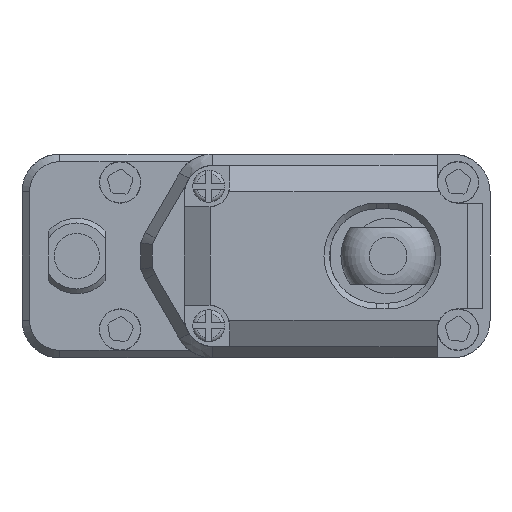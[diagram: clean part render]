
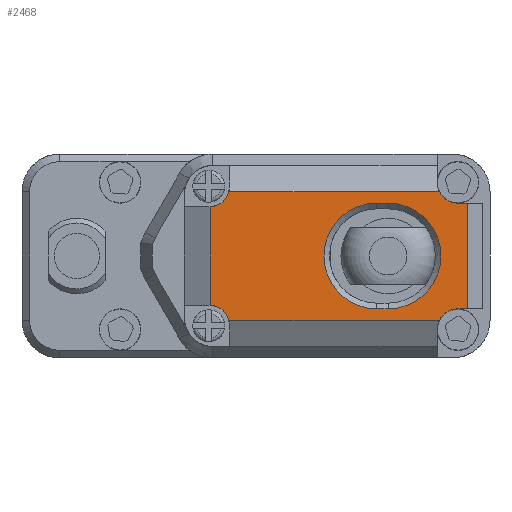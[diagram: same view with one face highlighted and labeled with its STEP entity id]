
A CAD part, front view. The second image highlights one B-rep face of the part: STEP entity #2468.
In plain terms, the highlighted planar face has unit normal (0, -1, 0).
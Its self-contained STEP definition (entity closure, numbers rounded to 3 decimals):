
#240 = ORIENTED_EDGE ( 'NONE', *, *, #11321, .T. ) ;
#312 = ORIENTED_EDGE ( 'NONE', *, *, #1854, .T. ) ;
#321 = VECTOR ( 'NONE', #12898, 1000. ) ;
#333 = ORIENTED_EDGE ( 'NONE', *, *, #8508, .F. ) ;
#613 = VERTEX_POINT ( 'NONE', #10889 ) ;
#680 = AXIS2_PLACEMENT_3D ( 'NONE', #9164, #2918, #14300 ) ;
#700 = CIRCLE ( 'NONE', #6828, 1.1 ) ;
#902 = DIRECTION ( 'NONE',  ( 0., 0., 1. ) ) ;
#909 = DIRECTION ( 'NONE',  ( 0., 0., -1. ) ) ;
#1046 = CARTESIAN_POINT ( 'NONE',  ( -2.414, 5.5, -3.414 ) ) ;
#1459 = CARTESIAN_POINT ( 'NONE',  ( -2.5, 5.5, 3.7 ) ) ;
#1854 = EDGE_CURVE ( 'NONE', #10903, #1856, #13425, .T. ) ;
#1856 = VERTEX_POINT ( 'NONE', #6679 ) ;
#1878 = AXIS2_PLACEMENT_3D ( 'NONE', #2076, #6994, #12146 ) ;
#1902 = VECTOR ( 'NONE', #6309, 1000. ) ;
#2076 = CARTESIAN_POINT ( 'NONE',  ( 10.7, 5.5, -3.9 ) ) ;
#2161 = CARTESIAN_POINT ( 'NONE',  ( 10.7, 5.5, 2.8 ) ) ;
#2193 = ORIENTED_EDGE ( 'NONE', *, *, #7519, .T. ) ;
#2420 = CIRCLE ( 'NONE', #15160, 2.8 ) ;
#2446 = ORIENTED_EDGE ( 'NONE', *, *, #6907, .T. ) ;
#2468 = ADVANCED_FACE ( 'NONE', ( #7140, #8475 ), #4900, .T. ) ;
#2607 = CARTESIAN_POINT ( 'NONE',  ( 4.1, 5.5, -2.8 ) ) ;
#2918 = DIRECTION ( 'NONE',  ( 0., 1., 0. ) ) ;
#2939 = EDGE_CURVE ( 'NONE', #5351, #16269, #8456, .T. ) ;
#2954 = CARTESIAN_POINT ( 'NONE',  ( -2.414, 5.5, 2.603 ) ) ;
#3047 = EDGE_CURVE ( 'NONE', #5351, #14907, #700, .T. ) ;
#3181 = ORIENTED_EDGE ( 'NONE', *, *, #3047, .F. ) ;
#3235 = CARTESIAN_POINT ( 'NONE',  ( 7., 5.5, -2.8 ) ) ;
#3267 = CARTESIAN_POINT ( 'NONE',  ( 6.4, 5.5, -2.8 ) ) ;
#3503 = CARTESIAN_POINT ( 'NONE',  ( 10.7, 5.5, 3.9 ) ) ;
#3564 = ORIENTED_EDGE ( 'NONE', *, *, #12540, .F. ) ;
#3661 = DIRECTION ( 'NONE',  ( 0., 1., 0. ) ) ;
#3694 = CARTESIAN_POINT ( 'NONE',  ( 4.1, 5.5, -2.8 ) ) ;
#4322 = CARTESIAN_POINT ( 'NONE',  ( -1.438, 5.5, -3.414 ) ) ;
#4454 = CARTESIAN_POINT ( 'NONE',  ( 9.6, 5.5, -3.414 ) ) ;
#4500 = VECTOR ( 'NONE', #14811, 1000. ) ;
#4900 = PLANE ( 'NONE',  #6020 ) ;
#5351 = VERTEX_POINT ( 'NONE', #2954 ) ;
#5437 = LINE ( 'NONE', #12990, #13056 ) ;
#5646 = DIRECTION ( 'NONE',  ( 0., 0., 1. ) ) ;
#5711 = VECTOR ( 'NONE', #6488, 1000. ) ;
#6020 = AXIS2_PLACEMENT_3D ( 'NONE', #11056, #14945, #902 ) ;
#6134 = ORIENTED_EDGE ( 'NONE', *, *, #13852, .T. ) ;
#6276 = VERTEX_POINT ( 'NONE', #13153 ) ;
#6309 = DIRECTION ( 'NONE',  ( 1., 0., 0. ) ) ;
#6488 = DIRECTION ( 'NONE',  ( -1., 0., 0. ) ) ;
#6527 = LINE ( 'NONE', #2607, #7494 ) ;
#6679 = CARTESIAN_POINT ( 'NONE',  ( 6.4, 5.5, 2.8 ) ) ;
#6721 = ORIENTED_EDGE ( 'NONE', *, *, #2939, .T. ) ;
#6763 = VERTEX_POINT ( 'NONE', #13511 ) ;
#6828 = AXIS2_PLACEMENT_3D ( 'NONE', #1459, #16406, #14006 ) ;
#6907 = EDGE_CURVE ( 'NONE', #14152, #10903, #6527, .T. ) ;
#6910 = CARTESIAN_POINT ( 'NONE',  ( 11.2, 5.5, 2.8 ) ) ;
#6994 = DIRECTION ( 'NONE',  ( 0., 1., 0. ) ) ;
#7053 = CARTESIAN_POINT ( 'NONE',  ( 11.2, 5.5, 2.8 ) ) ;
#7063 = EDGE_CURVE ( 'NONE', #6276, #14907, #5437, .T. ) ;
#7079 = VECTOR ( 'NONE', #12188, 1000. ) ;
#7140 = FACE_OUTER_BOUND ( 'NONE', #9240, .T. ) ;
#7434 = VERTEX_POINT ( 'NONE', #6910 ) ;
#7494 = VECTOR ( 'NONE', #11436, 1000. ) ;
#7519 = EDGE_CURVE ( 'NONE', #8104, #6763, #9051, .T. ) ;
#7609 = VERTEX_POINT ( 'NONE', #2161 ) ;
#7819 = EDGE_CURVE ( 'NONE', #13914, #14152, #2420, .T. ) ;
#7899 = DIRECTION ( 'NONE',  ( 0., 0., 1. ) ) ;
#8054 = EDGE_CURVE ( 'NONE', #1856, #13914, #10040, .T. ) ;
#8104 = VERTEX_POINT ( 'NONE', #15271 ) ;
#8232 = EDGE_LOOP ( 'NONE', ( #2446, #312, #15899, #16136 ) ) ;
#8456 = LINE ( 'NONE', #1046, #7079 ) ;
#8475 = FACE_BOUND ( 'NONE', #8232, .T. ) ;
#8508 = EDGE_CURVE ( 'NONE', #613, #6763, #10248, .T. ) ;
#8989 = VERTEX_POINT ( 'NONE', #4322 ) ;
#9051 = CIRCLE ( 'NONE', #1878, 1.1 ) ;
#9164 = CARTESIAN_POINT ( 'NONE',  ( 6.4, 5.5, 0. ) ) ;
#9240 = EDGE_LOOP ( 'NONE', ( #3181, #6721, #3564, #6134, #2193, #333, #16323, #9774, #240, #11442 ) ) ;
#9774 = ORIENTED_EDGE ( 'NONE', *, *, #11538, .T. ) ;
#10040 = LINE ( 'NONE', #12453, #1902 ) ;
#10155 = VECTOR ( 'NONE', #5646, 1000. ) ;
#10248 = LINE ( 'NONE', #3694, #321 ) ;
#10763 = LINE ( 'NONE', #4454, #4500 ) ;
#10806 = CIRCLE ( 'NONE', #13971, 1.1 ) ;
#10889 = CARTESIAN_POINT ( 'NONE',  ( 11.2, 5.5, -2.8 ) ) ;
#10903 = VERTEX_POINT ( 'NONE', #3267 ) ;
#11056 = CARTESIAN_POINT ( 'NONE',  ( 4.1, 5.5, 0. ) ) ;
#11113 = CARTESIAN_POINT ( 'NONE',  ( -2.414, 5.5, -2.603 ) ) ;
#11321 = EDGE_CURVE ( 'NONE', #7609, #6276, #12078, .T. ) ;
#11436 = DIRECTION ( 'NONE',  ( -1., 0., 0. ) ) ;
#11442 = ORIENTED_EDGE ( 'NONE', *, *, #7063, .T. ) ;
#11538 = EDGE_CURVE ( 'NONE', #7434, #7609, #12873, .T. ) ;
#11555 = CARTESIAN_POINT ( 'NONE',  ( 4.1, 5.5, 2.8 ) ) ;
#11759 = DIRECTION ( 'NONE',  ( -1., 0., 0. ) ) ;
#11961 = LINE ( 'NONE', #7053, #10155 ) ;
#12078 = CIRCLE ( 'NONE', #13934, 1.1 ) ;
#12146 = DIRECTION ( 'NONE',  ( 0., 0., -1. ) ) ;
#12188 = DIRECTION ( 'NONE',  ( 0., 0., -1. ) ) ;
#12453 = CARTESIAN_POINT ( 'NONE',  ( 7., 5.5, 2.8 ) ) ;
#12540 = EDGE_CURVE ( 'NONE', #8989, #16269, #10806, .T. ) ;
#12765 = CARTESIAN_POINT ( 'NONE',  ( -1.438, 5.5, 3.414 ) ) ;
#12873 = LINE ( 'NONE', #11555, #5711 ) ;
#12898 = DIRECTION ( 'NONE',  ( -1., 0., 0. ) ) ;
#12990 = CARTESIAN_POINT ( 'NONE',  ( -3.8, 5.5, 3.414 ) ) ;
#13056 = VECTOR ( 'NONE', #11759, 1000. ) ;
#13153 = CARTESIAN_POINT ( 'NONE',  ( 9.713, 5.5, 3.414 ) ) ;
#13196 = DIRECTION ( 'NONE',  ( 0., 1., 0. ) ) ;
#13425 = CIRCLE ( 'NONE', #680, 2.8 ) ;
#13511 = CARTESIAN_POINT ( 'NONE',  ( 10.7, 5.5, -2.8 ) ) ;
#13554 = CARTESIAN_POINT ( 'NONE',  ( -2.5, 5.5, -3.7 ) ) ;
#13852 = EDGE_CURVE ( 'NONE', #8989, #8104, #10763, .T. ) ;
#13902 = CARTESIAN_POINT ( 'NONE',  ( 7., 5.5, 2.8 ) ) ;
#13914 = VERTEX_POINT ( 'NONE', #13902 ) ;
#13934 = AXIS2_PLACEMENT_3D ( 'NONE', #3503, #3661, #909 ) ;
#13971 = AXIS2_PLACEMENT_3D ( 'NONE', #13554, #14873, #15040 ) ;
#14006 = DIRECTION ( 'NONE',  ( 0., 0., 1. ) ) ;
#14152 = VERTEX_POINT ( 'NONE', #3235 ) ;
#14300 = DIRECTION ( 'NONE',  ( 0., 0., 1. ) ) ;
#14811 = DIRECTION ( 'NONE',  ( 1., 0., 0. ) ) ;
#14873 = DIRECTION ( 'NONE',  ( 0., -1., 0. ) ) ;
#14907 = VERTEX_POINT ( 'NONE', #12765 ) ;
#14945 = DIRECTION ( 'NONE',  ( 0., -1., 0. ) ) ;
#15040 = DIRECTION ( 'NONE',  ( 0., 0., 1. ) ) ;
#15160 = AXIS2_PLACEMENT_3D ( 'NONE', #15368, #13196, #7899 ) ;
#15271 = CARTESIAN_POINT ( 'NONE',  ( 9.713, 5.5, -3.414 ) ) ;
#15368 = CARTESIAN_POINT ( 'NONE',  ( 7., 5.5, 0. ) ) ;
#15865 = EDGE_CURVE ( 'NONE', #613, #7434, #11961, .T. ) ;
#15899 = ORIENTED_EDGE ( 'NONE', *, *, #8054, .T. ) ;
#16136 = ORIENTED_EDGE ( 'NONE', *, *, #7819, .T. ) ;
#16269 = VERTEX_POINT ( 'NONE', #11113 ) ;
#16323 = ORIENTED_EDGE ( 'NONE', *, *, #15865, .T. ) ;
#16406 = DIRECTION ( 'NONE',  ( 0., -1., 0. ) ) ;
